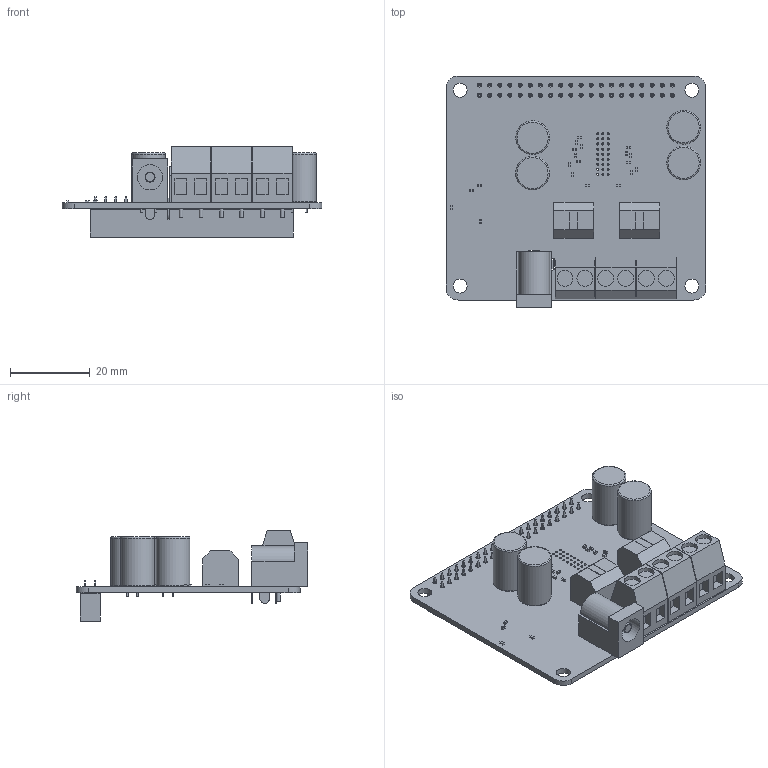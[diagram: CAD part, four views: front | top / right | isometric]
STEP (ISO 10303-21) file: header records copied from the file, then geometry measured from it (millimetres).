
FILE_DESCRIPTION(('KiCad electronic assembly'),'2;1');
FILE_NAME('amp2.step','2019-07-26T08:22:25',('An Author'),('A Company'), 'Open CASCADE STEP processor 6.9','KiCad to STEP converter','Unknown' );
FILE_SCHEMA(('AUTOMOTIVE_DESIGN { 1 0 10303 214 1 1 1 1 }'));
Length unit declared in the file: millimetre
Products named in the file (14): Open CASCADE STEP translator 6.9 1; C_0402; SOLID; cp_8.5x12mm; PinSocket_2x20_P2.54mm_Vertical; AK300-2; COMPOUND; BarrelJack_Horizontal_fp; IHLD_4032KB_5A_fp
Assembly tree (38 placements, depth 3):
  Open CASCADE STEP translator 6.9 1
    C_0402  x20
      SOLID
    cp_8.5x12mm  x4
      SOLID
    PinSocket_2x20_P2.54mm_Vertical
      SOLID
    AK300-2  x3
      COMPOUND
    BarrelJack_Horizontal_fp
      SOLID
    IHLD_4032KB_5A_fp  x2
      SOLID
    COMPOUND
Bounding box: 65 x 57.96 x 22.6 mm (x, y, z)
Volume: 15560.2 mm3; surface area: 16234.2 mm2
Topology: 38 solids, 38 shells, 2106 faces, 5363 edges, 3520 vertices
Faces by surface type: plane 1731, cylinder 365, torus 10
Full cylindrical faces by diameter (mm): 0.4 x8, 0.508 x27, 0.8 x8, 0.9 x6, 1.016 x40, 1.321 x6, 2.5 x1, 3.5 x4, 4 x6, 6.3 x1, 8.4 x4
Entity records: 104317 total; most frequent: CARTESIAN_POINT 16685, DIRECTION 14480, LINE 10913, VECTOR 10913, ORIENTED_EDGE 7612, PCURVE 7612, DEFINITIONAL_REPRESENTATION 7612, EDGE_CURVE 3806
